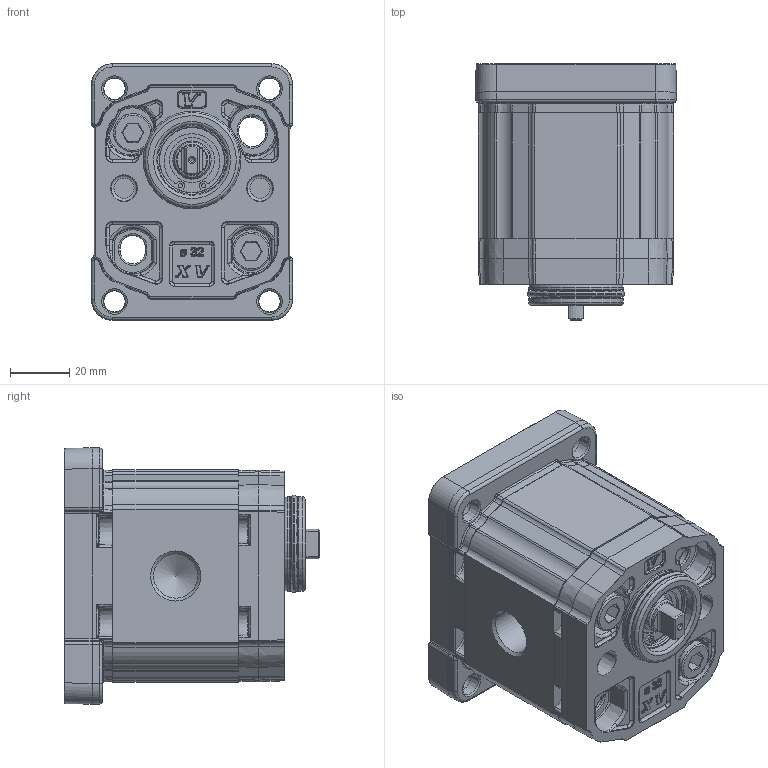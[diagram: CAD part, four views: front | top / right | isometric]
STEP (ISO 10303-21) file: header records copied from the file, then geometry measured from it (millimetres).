
FILE_DESCRIPTION(/* description */ ('Unknown'),/* implementation_level */ '2;1');
FILE_NAME(/* name */ 'X1T1741DBBA',/* time_stamp */ '2026-05-27T08:29:46+02:00',/* author */ ('Unknown'),/* organization */ ('Unknown'),/* preprocessor_version */ 'ST-DEVELOPER v16.7',/* originating_system */ 'Solid Edge',/* authorisation */ 'Unknown');
FILE_SCHEMA (('AUTOMOTIVE_DESIGN {1 0 10303 214 3 1 1}'));
Products named in the file (5): X1T1741DBBA; X1T41; 1D; X1BBH42,5; XT119-A
Assembly tree (4 placements, depth 2):
  X1T1741DBBA
    X1T41
    1D
    X1BBH42,5
    XT119-A
Bounding box: 68 x 86.5 x 86.7 mm (x, y, z)
Volume: 298292.2 mm3; surface area: 69073.2 mm2
Topology: 5 solids, 6 shells, 2144 faces, 5218 edges, 3097 vertices
Faces by surface type: cylinder 703, bspline 407, plane 402, torus 352, cone 228, sphere 52
Full cylindrical faces by diameter (mm): 1.447 x2, 1.5 x1, 2.5 x1, 3.65 x2, 6.8 x2, 7.15 x4, 7.99 x2, 8 x2, 8.5 x3, 9 x2, 9.337 x2, 9.9 x1, 10 x1, 10.5 x4, 11.965 x2, 12 x2, 12.923 x1, 13 x1, 14.95 x2, 15.115 x1, 15.181 x1, 19 x2, 20 x1, 21.4 x1, 22 x2, 22.2 x1, 23 x1, 24 x1, 25.4 x1, 29.4 x2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
Entity records: 104053 total; most frequent: CARTESIAN_POINT 42061, ORIENTED_EDGE 9856, DIRECTION 9660, EDGE_CURVE 4928, AXIS2_PLACEMENT_3D 4129, VERTEX_POINT 3029, FACE_BOUND 2413, EDGE_LOOP 2408
